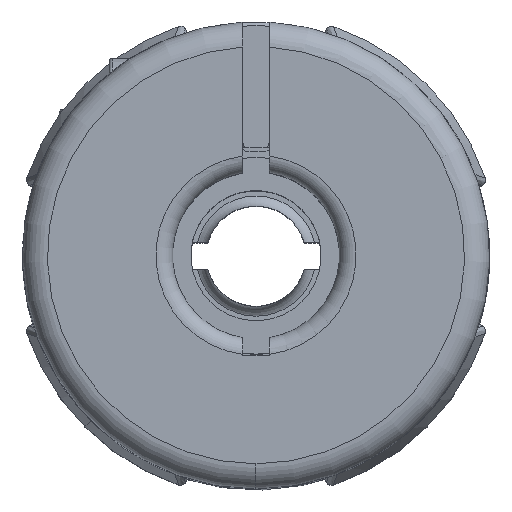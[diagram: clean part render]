
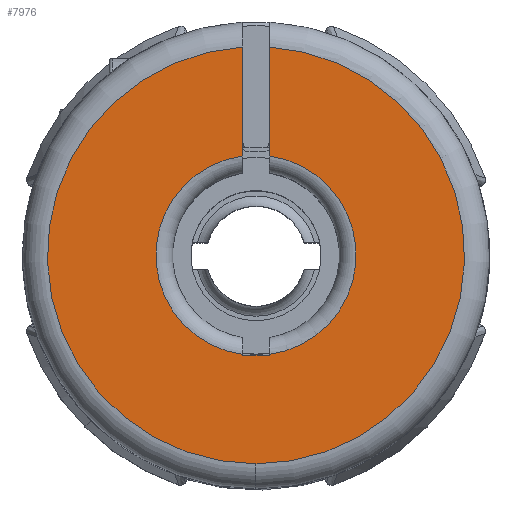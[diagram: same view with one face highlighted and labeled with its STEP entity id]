
A CAD part, top view. The second image highlights one B-rep face of the part: STEP entity #7976.
In plain terms, the highlighted planar face has unit normal (0, 0, 1).
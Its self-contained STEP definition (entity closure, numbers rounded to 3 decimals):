
#2464 = CARTESIAN_POINT ( 'NONE',  ( 1.521, 8.233, 16.552 ) ) ;
#2465 = CARTESIAN_POINT ( 'NONE',  ( 1.121, -4.255, 16.552 ) ) ;
#2466 = DIRECTION ( 'NONE',  ( 0., -1., 0. ) ) ;
#2467 = DIRECTION ( 'NONE',  ( 0., 0., 1. ) ) ;
#2468 = CARTESIAN_POINT ( 'NONE',  ( 1.121, 1.995, 16.552 ) ) ;
#2469 = AXIS2_PLACEMENT_3D ( 'NONE', #2468, #2467, #2466 ) ;
#2470 = CIRCLE ( 'NONE', #2469, 6.25 ) ;
#2581 = CARTESIAN_POINT ( 'NONE',  ( 1.521, -1.005, 16.552 ) ) ;
#2613 = CARTESIAN_POINT ( 'NONE',  ( 0.721, 4.969, 16.552 ) ) ;
#2627 = CARTESIAN_POINT ( 'NONE',  ( 0.721, -1.005, 16.552 ) ) ;
#2628 = DIRECTION ( 'NONE',  ( 0., 1., 0. ) ) ;
#2629 = VECTOR ( 'NONE', #2628, 1000. ) ;
#2630 = CARTESIAN_POINT ( 'NONE',  ( 0.721, -1.005, 16.552 ) ) ;
#2631 = LINE ( 'NONE', #2630, #2629 ) ;
#2660 = CARTESIAN_POINT ( 'NONE',  ( 0.721, -0.978, 16.552 ) ) ;
#2661 = DIRECTION ( 'NONE',  ( 0., -1., 0. ) ) ;
#2662 = DIRECTION ( 'NONE',  ( 0., 0., -1. ) ) ;
#2663 = CARTESIAN_POINT ( 'NONE',  ( 1.121, 1.995, 16.552 ) ) ;
#2664 = AXIS2_PLACEMENT_3D ( 'NONE', #2663, #2662, #2661 ) ;
#2671 = CIRCLE ( 'NONE', #2664, 3. ) ;
#2676 = CARTESIAN_POINT ( 'NONE',  ( 1.521, -0.978, 16.552 ) ) ;
#2677 = DIRECTION ( 'NONE',  ( 0., 1., 0. ) ) ;
#2678 = VECTOR ( 'NONE', #2677, 1000. ) ;
#2685 = CARTESIAN_POINT ( 'NONE',  ( 1.521, -1.005, 16.552 ) ) ;
#2686 = LINE ( 'NONE', #2685, #2678 ) ;
#2777 = DIRECTION ( 'NONE',  ( -1., 0., 0. ) ) ;
#2778 = VECTOR ( 'NONE', #2777, 1000. ) ;
#2779 = CARTESIAN_POINT ( 'NONE',  ( 0.721, -1.005, 16.552 ) ) ;
#2780 = LINE ( 'NONE', #2779, #2778 ) ;
#2786 = CARTESIAN_POINT ( 'NONE',  ( 0.721, 8.233, 16.552 ) ) ;
#2787 = DIRECTION ( 'NONE',  ( 0., 1., 0. ) ) ;
#2788 = VECTOR ( 'NONE', #2787, 1000. ) ;
#2789 = CARTESIAN_POINT ( 'NONE',  ( 0.721, -1.005, 16.552 ) ) ;
#2790 = LINE ( 'NONE', #2789, #2788 ) ;
#2791 = DIRECTION ( 'NONE',  ( 0., -1., 0. ) ) ;
#2792 = DIRECTION ( 'NONE',  ( 0., 0., -1. ) ) ;
#2793 = CARTESIAN_POINT ( 'NONE',  ( 1.121, 1.995, 16.552 ) ) ;
#2794 = AXIS2_PLACEMENT_3D ( 'NONE', #2793, #2792, #2791 ) ;
#2795 = PLANE ( 'NONE',  #2794 ) ;
#2796 = FACE_OUTER_BOUND ( 'NONE', #7977, .T. ) ;
#2817 = DIRECTION ( 'NONE',  ( 0., -1., 0. ) ) ;
#2818 = DIRECTION ( 'NONE',  ( 0., 0., -1. ) ) ;
#2819 = CARTESIAN_POINT ( 'NONE',  ( 1.121, 1.995, 16.552 ) ) ;
#2820 = AXIS2_PLACEMENT_3D ( 'NONE', #2819, #2818, #2817 ) ;
#2821 = CIRCLE ( 'NONE', #2820, 3. ) ;
#2822 = CARTESIAN_POINT ( 'NONE',  ( 1.521, 4.969, 16.552 ) ) ;
#2838 = DIRECTION ( 'NONE',  ( 0., 1., 0. ) ) ;
#2839 = VECTOR ( 'NONE', #2838, 1000. ) ;
#2840 = CARTESIAN_POINT ( 'NONE',  ( 1.521, -1.005, 16.552 ) ) ;
#2841 = LINE ( 'NONE', #2840, #2839 ) ;
#2842 = DIRECTION ( 'NONE',  ( 0., -1., 0. ) ) ;
#2843 = DIRECTION ( 'NONE',  ( 0., 0., 1. ) ) ;
#2844 = CARTESIAN_POINT ( 'NONE',  ( 1.121, 1.995, 16.552 ) ) ;
#2845 = AXIS2_PLACEMENT_3D ( 'NONE', #2844, #2843, #2842 ) ;
#2846 = CIRCLE ( 'NONE', #2845, 6.25 ) ;
#7822 = EDGE_CURVE ( 'NONE', #7823, #7824, #2470, .T. ) ;
#7823 = VERTEX_POINT ( 'NONE', #2465 ) ;
#7824 = VERTEX_POINT ( 'NONE', #2464 ) ;
#7872 = VERTEX_POINT ( 'NONE', #2581 ) ;
#7885 = EDGE_CURVE ( 'NONE', #7886, #7898, #2631, .T. ) ;
#7886 = VERTEX_POINT ( 'NONE', #2627 ) ;
#7895 = VERTEX_POINT ( 'NONE', #2613 ) ;
#7897 = EDGE_CURVE ( 'NONE', #7898, #7895, #2671, .T. ) ;
#7898 = VERTEX_POINT ( 'NONE', #2660 ) ;
#7919 = EDGE_CURVE ( 'NONE', #7872, #7920, #2686, .T. ) ;
#7920 = VERTEX_POINT ( 'NONE', #2676 ) ;
#7955 = EDGE_CURVE ( 'NONE', #7872, #7886, #2780, .T. ) ;
#7976 = ADVANCED_FACE ( 'NONE', ( #2796 ), #2795, .F. ) ;
#7977 = EDGE_LOOP ( 'NONE', ( #7978, #7981, #7983, #7984, #7986, #7987, #7988, #8005, #8006 ) ) ;
#7978 = ORIENTED_EDGE ( 'NONE', *, *, #7979, .T. ) ;
#7979 = EDGE_CURVE ( 'NONE', #7895, #7980, #2790, .T. ) ;
#7980 = VERTEX_POINT ( 'NONE', #2786 ) ;
#7981 = ORIENTED_EDGE ( 'NONE', *, *, #7982, .T. ) ;
#7982 = EDGE_CURVE ( 'NONE', #7980, #7823, #2846, .T. ) ;
#7983 = ORIENTED_EDGE ( 'NONE', *, *, #7822, .T. ) ;
#7984 = ORIENTED_EDGE ( 'NONE', *, *, #7985, .F. ) ;
#7985 = EDGE_CURVE ( 'NONE', #7996, #7824, #2841, .T. ) ;
#7986 = ORIENTED_EDGE ( 'NONE', *, *, #7995, .T. ) ;
#7987 = ORIENTED_EDGE ( 'NONE', *, *, #7919, .F. ) ;
#7988 = ORIENTED_EDGE ( 'NONE', *, *, #7955, .T. ) ;
#7995 = EDGE_CURVE ( 'NONE', #7996, #7920, #2821, .T. ) ;
#7996 = VERTEX_POINT ( 'NONE', #2822 ) ;
#8005 = ORIENTED_EDGE ( 'NONE', *, *, #7885, .T. ) ;
#8006 = ORIENTED_EDGE ( 'NONE', *, *, #7897, .T. ) ;
